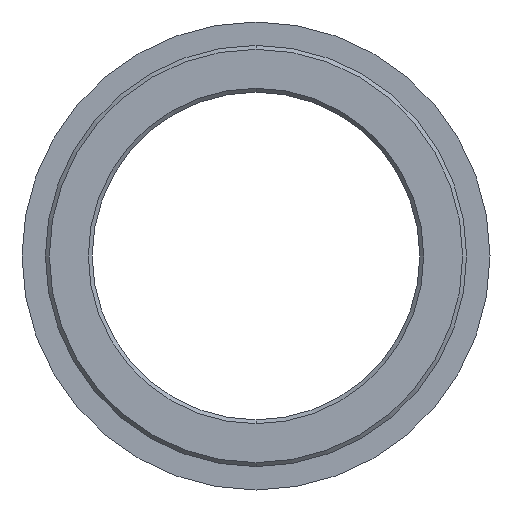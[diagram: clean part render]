
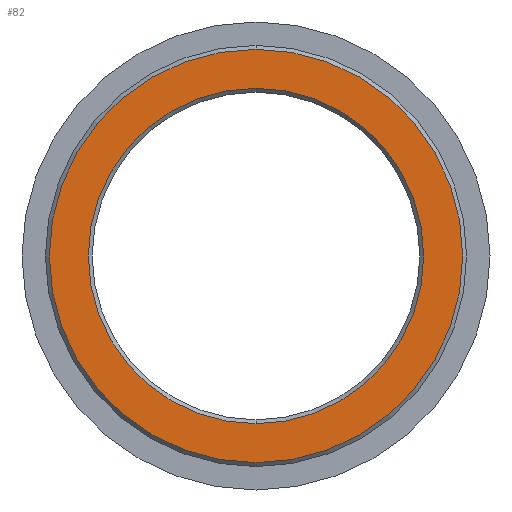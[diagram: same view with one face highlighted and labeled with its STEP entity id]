
A CAD part, left-side view. The second image highlights one B-rep face of the part: STEP entity #82.
In plain terms, the highlighted free-form (B-spline) face has degree [1, 1] with [2, 2] control points.
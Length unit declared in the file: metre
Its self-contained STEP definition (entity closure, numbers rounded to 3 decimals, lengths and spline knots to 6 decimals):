
#82 = ADVANCED_FACE( '', ( #116, #117 ), #118, .F. );
#116 = FACE_BOUND( '', #181, .T. );
#117 = FACE_OUTER_BOUND( '', #182, .T. );
#118 = B_SPLINE_SURFACE_WITH_KNOTS( '', 1, 1, ( ( #183, #184 ), ( #185, #186 ) ), .UNSPECIFIED., .F., .F., .F., ( 2, 2 ), ( 2, 2 ), ( 0., 1. ), ( 0., 1. ), .UNSPECIFIED. );
#181 = EDGE_LOOP( '', ( #295, #296 ) );
#182 = EDGE_LOOP( '', ( #297, #298 ) );
#183 = CARTESIAN_POINT( '', ( 0., -0.026818, 0.026818 ) );
#184 = CARTESIAN_POINT( '', ( 0., 0.026818, 0.026818 ) );
#185 = CARTESIAN_POINT( '', ( 0., -0.026818, -0.026818 ) );
#186 = CARTESIAN_POINT( '', ( 0., 0.026818, -0.026818 ) );
#295 = ORIENTED_EDGE( '', *, *, #457, .F. );
#296 = ORIENTED_EDGE( '', *, *, #458, .F. );
#297 = ORIENTED_EDGE( '', *, *, #456, .T. );
#298 = ORIENTED_EDGE( '', *, *, #447, .T. );
#447 = EDGE_CURVE( '', #503, #504, #505, .F. );
#456 = EDGE_CURVE( '', #504, #503, #518, .F. );
#457 = EDGE_CURVE( '', #519, #520, #521, .T. );
#458 = EDGE_CURVE( '', #520, #519, #522, .T. );
#503 = VERTEX_POINT( '', #587 );
#504 = VERTEX_POINT( '', #588 );
#505 = CIRCLE( '', #589, 0.0265 );
#518 = CIRCLE( '', #606, 0.0265 );
#519 = VERTEX_POINT( '', #607 );
#520 = VERTEX_POINT( '', #608 );
#521 = CIRCLE( '', #609, 0.0215 );
#522 = CIRCLE( '', #610, 0.0215 );
#587 = CARTESIAN_POINT( '', ( 0., 0., -0.0265 ) );
#588 = CARTESIAN_POINT( '', ( 0., 0., 0.0265 ) );
#589 = AXIS2_PLACEMENT_3D( '', #695, #696, #697 );
#606 = AXIS2_PLACEMENT_3D( '', #714, #715, #716 );
#607 = CARTESIAN_POINT( '', ( 0., 0., -0.0215 ) );
#608 = CARTESIAN_POINT( '', ( 0., 0., 0.0215 ) );
#609 = AXIS2_PLACEMENT_3D( '', #717, #718, #719 );
#610 = AXIS2_PLACEMENT_3D( '', #720, #721, #722 );
#695 = CARTESIAN_POINT( '', ( 0., 0., 0. ) );
#696 = DIRECTION( '', ( 1., 0., 0. ) );
#697 = DIRECTION( '', ( 0., 0., -1. ) );
#714 = CARTESIAN_POINT( '', ( 0., 0., 0. ) );
#715 = DIRECTION( '', ( 1., 0., 0. ) );
#716 = DIRECTION( '', ( 0., 0., -1. ) );
#717 = CARTESIAN_POINT( '', ( 0., 0., 0. ) );
#718 = DIRECTION( '', ( -1., 0., 0. ) );
#719 = DIRECTION( '', ( 0., 0., 1. ) );
#720 = CARTESIAN_POINT( '', ( 0., 0., 0. ) );
#721 = DIRECTION( '', ( -1., 0., 0. ) );
#722 = DIRECTION( '', ( 0., 0., 1. ) );
